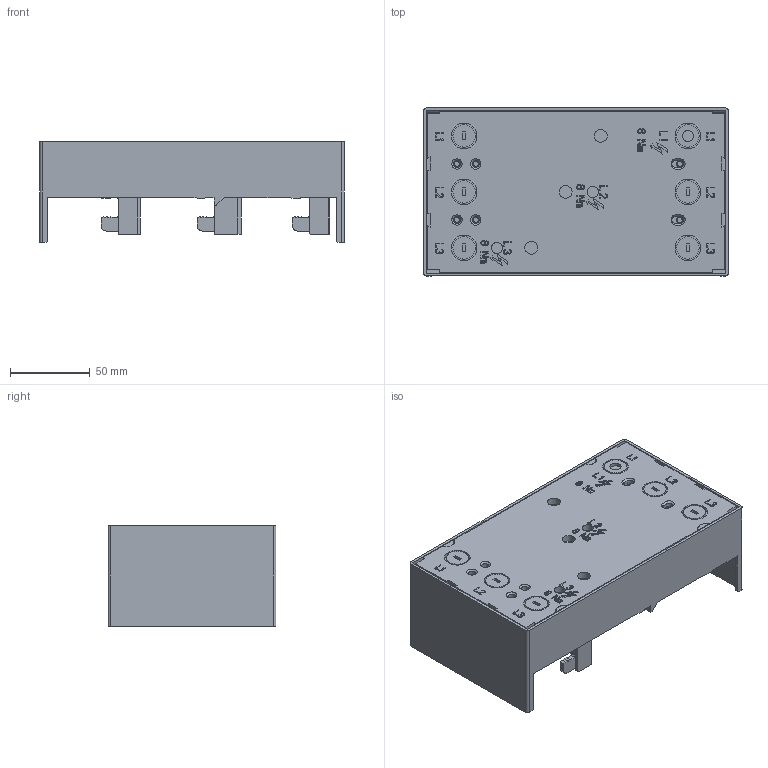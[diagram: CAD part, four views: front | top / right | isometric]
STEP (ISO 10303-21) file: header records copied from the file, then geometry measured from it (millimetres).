
FILE_DESCRIPTION (( 'STEP AP203' ), '1' );
FILE_NAME ('55154.STEP', '2021-08-25T03:22:55', ( '' ), ( '' ), 'SwSTEP 2.0', 'SolidWorks 2017', '' );
FILE_SCHEMA (( 'CONFIG_CONTROL_DESIGN' ));
Products named in the file (2): 55154
Bounding box: 190.5 x 105 x 63 mm (x, y, z)
Volume: 685681.7 mm3; surface area: 133254.2 mm2
Topology: 5 solids, 30 shells, 2602 faces, 7326 edges, 4845 vertices
Faces by surface type: plane 2247, cylinder 271, cone 78, torus 6
Full cylindrical faces by diameter (mm): 3.2 x12, 3.8 x2, 4.5 x4, 7 x3, 7.5 x4, 7.8 x2, 8 x3, 10 x1, 12 x3, 14 x6, 16 x6
Entity records: 82514 total; most frequent: CARTESIAN_POINT 15302, ORIENTED_EDGE 14384, DIRECTION 12888, EDGE_CURVE 7192, VECTOR 6374, LINE 6374, VERTEX_POINT 4799, AXIS2_PLACEMENT_3D 3257
